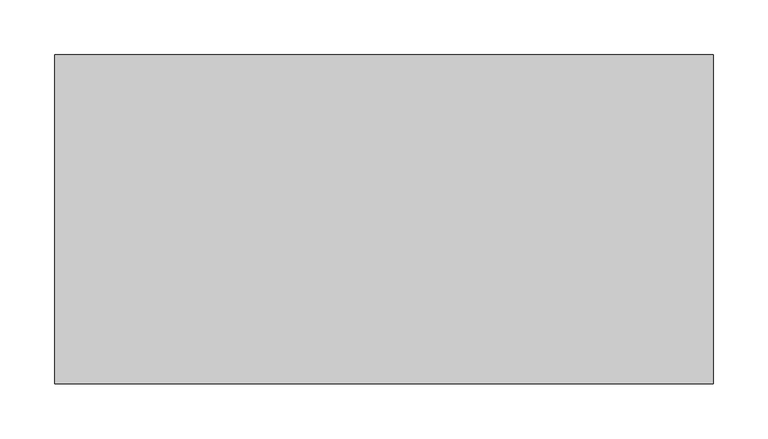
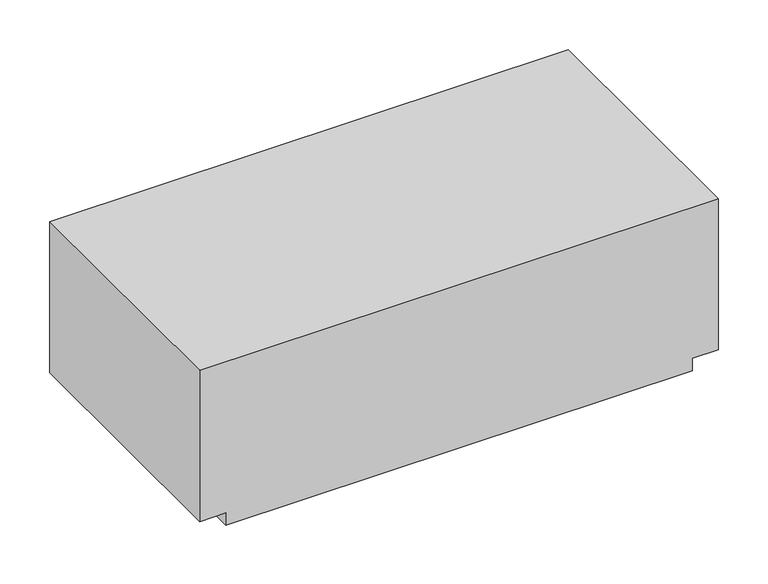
"""IFC4 building model written with IfcOpenShell, lengths in millimetres: proxy geometry, Módulo Laje de Concreto Celular com Friso - Celucon : MLCC friso 20x30x60cm (A x B x C)."""

from ifc_helpers import new_model, si_unit, frame, origin, place, context, project, spatial, polyline, outline, extrude, source, transform, mapped, element, save


def generic_models_699c91c1(model_context):
    return source(origin(), model_context, "Body", "SweptSolid", [
        extrude(outline(polyline([(200.0, 300.0), (200.0, -300.0), (15.0, -300.0), (15.0, -270.0), (0.0, -270.0), (0.0, 270.0), (15.0, 270.0), (15.0, 300.0), (200.0, 300.0)])), frame((0.0, -150.0, 0.0), z_axis=(0.0, 1.0, 0.0), x_axis=(0.0, 0.0, 1.0)), (0.0, 0.0, 1.0), 300.0),
    ])


if __name__ == "__main__":
    model = new_model("IFC4")
    model_context = context("Model", 3, world=origin())
    ifc_project = project(units=[si_unit("LENGTHUNIT", "METRE", prefix="MILLI")], contexts=[model_context])
    site = spatial("IfcSite", under=ifc_project)
    building = spatial("IfcBuilding", under=site)
    placement = place(None, origin())
    generic_models_shape = generic_models_699c91c1(model_context)
    element("IfcBuildingElementProxy", 1, Name="Módulo Laje de Concreto Celular com Friso - Celucon : MLCC friso 20x30x60cm (A x B x C)", ObjectType="Módulo Laje de Concreto Celular com Friso - Celucon : MLCC friso 20x30x60cm (A x B x C)", at=placement, inside=building, context=model_context, shape_type="MappedRepresentation", body=[
        mapped(generic_models_shape, transform((0.0, 0.0, 0.0), x_axis=(1.0, 0.0, 0.0), y_axis=(0.0, 1.0, 0.0), z_axis=(0.0, 0.0, 1.0))),
    ])
    save(model, "model.ifc")
